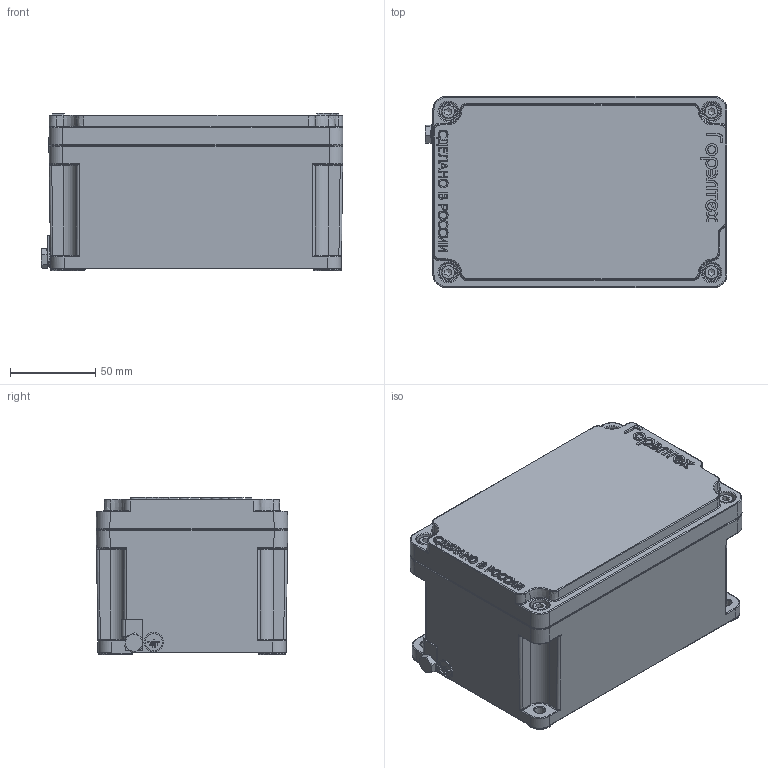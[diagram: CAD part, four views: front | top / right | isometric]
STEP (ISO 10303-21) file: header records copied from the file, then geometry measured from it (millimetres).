
FILE_DESCRIPTION((''),'2;1');
FILE_NAME('\\192.168.5.25\cortem_klient\INVENTOR БАЗА МОДЕЛЕЙ\Актуальная база моделей для отдела продаж\КСРВ\КСРВ171109_М1.stp','2019-04-09T11:26:05',('A.S.Kozlov'),(''),'Autodesk Inventor 2012','Autodesk Inventor 2012','');
FILE_SCHEMA(('CONFIG_CONTROL_DESIGN'));
Length unit declared in the file: millimetre
Products named in the file (1): КСРВ171109_М1_Внешний контур_1
Bounding box: 176.7 x 112.08 x 92 mm (x, y, z)
Surface area: 182519.5 mm2 (no closed solid volume)
Topology: 0 solids, 16 shells, 1762 faces, 4310 edges, 2625 vertices
Faces by surface type: bspline 626, plane 533, cylinder 381, torus 138, cone 73, sphere 11
Full cylindrical faces by diameter (mm): 4.1 x9, 4.567 x1, 4.9 x1, 5 x5, 5.3 x1, 5.459 x1, 6 x2, 6.5 x1, 6.7 x1, 8.5 x4, 8.7 x1, 10 x3, 11.4 x2
Entity records: 78768 total; most frequent: CARTESIAN_POINT 39544, ORIENTED_EDGE 8240, DIRECTION 6525, EDGE_CURVE 4120, VERTEX_POINT 2611, AXIS2_PLACEMENT_3D 2304, EDGE_LOOP 2023, VECTOR 1917
